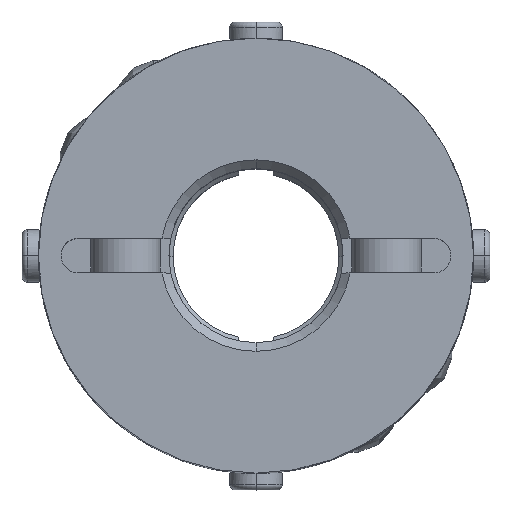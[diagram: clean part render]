
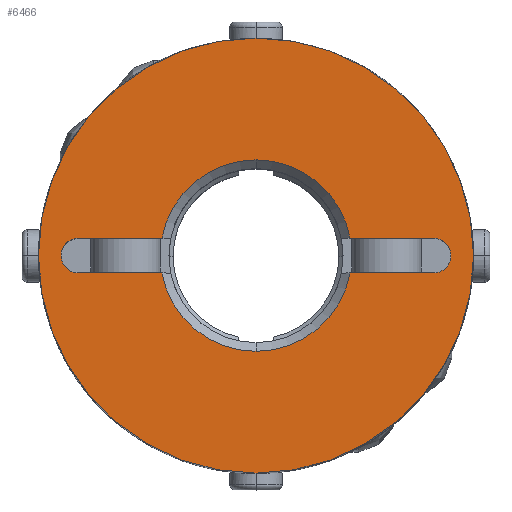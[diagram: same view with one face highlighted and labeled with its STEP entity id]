
A CAD part, top view. The second image highlights one B-rep face of the part: STEP entity #6466.
In plain terms, the highlighted planar face has unit normal (0, 0, 1).
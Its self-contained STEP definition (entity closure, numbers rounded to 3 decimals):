
#2656=CARTESIAN_POINT('',(0.,12.5,13.5));
#2657=VERTEX_POINT('',#2656);
#2664=CARTESIAN_POINT('',(0.,-12.5,13.5));
#2665=VERTEX_POINT('',#2664);
#2666=CARTESIAN_POINT('',(0.,0.0,13.5));
#2667=DIRECTION('',(0.0,0.0,-1.0));
#2668=DIRECTION('',(0.0,-1.0,0.0));
#2669=AXIS2_PLACEMENT_3D('',#2666,#2667,#2668);
#2670=CIRCLE('',#2669,12.5);
#2671=EDGE_CURVE('',#2657,#2665,#2670,.T.);
#2944=CARTESIAN_POINT('',(10.907,0.707,13.5));
#2945=VERTEX_POINT('',#2944);
#2961=CARTESIAN_POINT('',(10.2,-1.,13.5));
#2962=VERTEX_POINT('',#2961);
#2969=CARTESIAN_POINT('',(10.2,0.,13.5));
#2970=DIRECTION('',(0.0,0.0,1.0));
#2971=DIRECTION('',(0.707,-0.707,0.0));
#2972=AXIS2_PLACEMENT_3D('',#2969,#2970,#2971);
#2973=CIRCLE('',#2972,1.0);
#2974=EDGE_CURVE('',#2962,#2945,#2973,.T.);
#2986=CARTESIAN_POINT('',(-10.907,-0.707,13.5));
#2987=VERTEX_POINT('',#2986);
#3003=CARTESIAN_POINT('',(-10.2,1.,13.5));
#3004=VERTEX_POINT('',#3003);
#3011=CARTESIAN_POINT('',(-10.2,0.,13.5));
#3012=DIRECTION('',(0.0,0.0,1.0));
#3013=DIRECTION('',(-0.707,0.707,0.0));
#3014=AXIS2_PLACEMENT_3D('',#3011,#3012,#3013);
#3015=CIRCLE('',#3014,1.0);
#3016=EDGE_CURVE('',#3004,#2987,#3015,.T.);
#3026=CARTESIAN_POINT('',(0.,5.5,13.5));
#3027=VERTEX_POINT('',#3026);
#3035=CARTESIAN_POINT('',(5.408,1.,13.5));
#3036=VERTEX_POINT('',#3035);
#3050=CARTESIAN_POINT('',(0.,0.0,13.5));
#3051=DIRECTION('',(0.0,0.0,1.0));
#3052=DIRECTION('',(0.0,1.0,0.0));
#3053=AXIS2_PLACEMENT_3D('',#3050,#3051,#3052);
#3054=CIRCLE('',#3053,5.5);
#3055=EDGE_CURVE('',#3036,#3027,#3054,.T.);
#3067=CARTESIAN_POINT('',(0.,-5.5,13.5));
#3068=VERTEX_POINT('',#3067);
#3084=CARTESIAN_POINT('',(-5.408,-1.,13.5));
#3085=VERTEX_POINT('',#3084);
#3099=CARTESIAN_POINT('',(0.,0.0,13.5));
#3100=DIRECTION('',(0.0,0.0,1.0));
#3101=DIRECTION('',(0.0,-1.0,0.0));
#3102=AXIS2_PLACEMENT_3D('',#3099,#3100,#3101);
#3103=CIRCLE('',#3102,5.5);
#3104=EDGE_CURVE('',#3085,#3068,#3103,.T.);
#6258=CARTESIAN_POINT('',(-10.2,-1.,13.5));
#6259=VERTEX_POINT('',#6258);
#6266=CARTESIAN_POINT('',(-5.408,-1.,13.5));
#6267=DIRECTION('',(-1.0,0.0,0.0));
#6268=VECTOR('',#6267,4.792);
#6269=LINE('',#6266,#6268);
#6270=EDGE_CURVE('',#3085,#6259,#6269,.T.);
#6327=CARTESIAN_POINT('',(-5.408,1.,13.5));
#6328=VERTEX_POINT('',#6327);
#6342=CARTESIAN_POINT('',(-10.2,1.,13.5));
#6343=DIRECTION('',(1.0,0.0,0.0));
#6344=VECTOR('',#6343,4.792);
#6345=LINE('',#6342,#6344);
#6346=EDGE_CURVE('',#3004,#6328,#6345,.T.);
#6363=CARTESIAN_POINT('',(5.408,-1.,13.5));
#6364=VERTEX_POINT('',#6363);
#6365=CARTESIAN_POINT('',(0.,0.0,13.5));
#6366=DIRECTION('',(0.0,0.0,1.0));
#6367=DIRECTION('',(0.0,-1.0,0.0));
#6368=AXIS2_PLACEMENT_3D('',#6365,#6366,#6367);
#6369=CIRCLE('',#6368,5.5);
#6370=EDGE_CURVE('',#3068,#6364,#6369,.T.);
#6397=CARTESIAN_POINT('',(10.2,-1.,13.5));
#6398=DIRECTION('',(-1.0,0.0,0.0));
#6399=VECTOR('',#6398,4.792);
#6400=LINE('',#6397,#6399);
#6401=EDGE_CURVE('',#2962,#6364,#6400,.T.);
#6412=CARTESIAN_POINT('',(0.,-1.136,13.5));
#6413=DIRECTION('',(0.0,0.0,1.0));
#6414=DIRECTION('',(0.0,-1.0,0.0));
#6415=AXIS2_PLACEMENT_3D('',#6412,#6413,#6414);
#6416=PLANE('',#6415);
#6417=CARTESIAN_POINT('',(0.,0.0,13.5));
#6418=DIRECTION('',(0.0,0.0,-1.0));
#6419=DIRECTION('',(0.0,-1.0,0.0));
#6420=AXIS2_PLACEMENT_3D('',#6417,#6418,#6419);
#6421=CIRCLE('',#6420,12.5);
#6422=EDGE_CURVE('',#2665,#2657,#6421,.T.);
#6423=ORIENTED_EDGE('',*,*,#6422,.F.);
#6424=ORIENTED_EDGE('',*,*,#2671,.F.);
#6425=EDGE_LOOP('',(#6423,#6424));
#6426=FACE_OUTER_BOUND('',#6425,.T.);
#6427=ORIENTED_EDGE('',*,*,#3104,.F.);
#6428=ORIENTED_EDGE('',*,*,#6270,.T.);
#6429=CARTESIAN_POINT('',(-10.2,0.,13.5));
#6430=DIRECTION('',(0.0,0.0,1.0));
#6431=DIRECTION('',(-0.707,0.707,0.0));
#6432=AXIS2_PLACEMENT_3D('',#6429,#6430,#6431);
#6433=CIRCLE('',#6432,1.0);
#6434=EDGE_CURVE('',#2987,#6259,#6433,.T.);
#6435=ORIENTED_EDGE('',*,*,#6434,.F.);
#6436=ORIENTED_EDGE('',*,*,#3016,.F.);
#6437=ORIENTED_EDGE('',*,*,#6346,.T.);
#6438=CARTESIAN_POINT('',(0.,0.0,13.5));
#6439=DIRECTION('',(0.0,0.0,1.0));
#6440=DIRECTION('',(0.0,1.0,0.0));
#6441=AXIS2_PLACEMENT_3D('',#6438,#6439,#6440);
#6442=CIRCLE('',#6441,5.5);
#6443=EDGE_CURVE('',#3027,#6328,#6442,.T.);
#6444=ORIENTED_EDGE('',*,*,#6443,.F.);
#6445=ORIENTED_EDGE('',*,*,#3055,.F.);
#6446=CARTESIAN_POINT('',(10.2,1.,13.5));
#6447=VERTEX_POINT('',#6446);
#6448=CARTESIAN_POINT('',(5.408,1.,13.5));
#6449=DIRECTION('',(1.0,0.0,0.0));
#6450=VECTOR('',#6449,4.792);
#6451=LINE('',#6448,#6450);
#6452=EDGE_CURVE('',#3036,#6447,#6451,.T.);
#6453=ORIENTED_EDGE('',*,*,#6452,.T.);
#6454=CARTESIAN_POINT('',(10.2,0.,13.5));
#6455=DIRECTION('',(0.0,0.0,1.0));
#6456=DIRECTION('',(0.707,-0.707,0.0));
#6457=AXIS2_PLACEMENT_3D('',#6454,#6455,#6456);
#6458=CIRCLE('',#6457,1.0);
#6459=EDGE_CURVE('',#2945,#6447,#6458,.T.);
#6460=ORIENTED_EDGE('',*,*,#6459,.F.);
#6461=ORIENTED_EDGE('',*,*,#2974,.F.);
#6462=ORIENTED_EDGE('',*,*,#6401,.T.);
#6463=ORIENTED_EDGE('',*,*,#6370,.F.);
#6464=EDGE_LOOP('',(#6427,#6428,#6435,#6436,#6437,#6444,#6445,#6453,#6460,#6461,#6462,#6463));
#6465=FACE_BOUND('',#6464,.T.);
#6466=ADVANCED_FACE('',(#6426,#6465),#6416,.T.);
